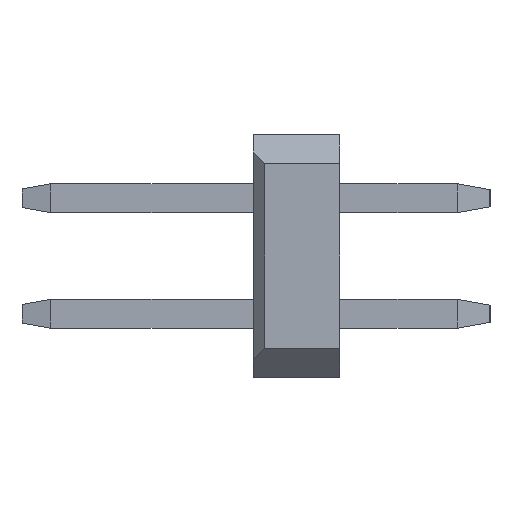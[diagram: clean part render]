
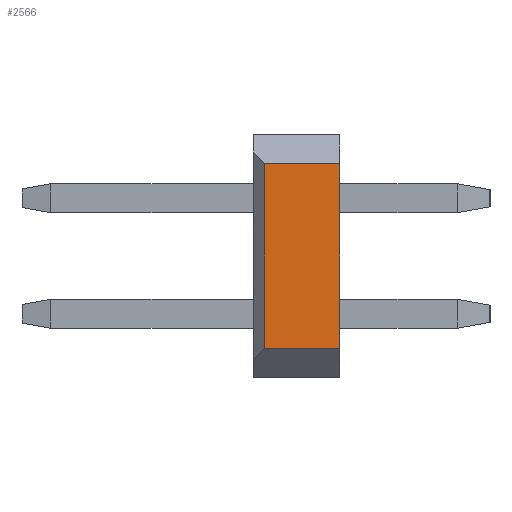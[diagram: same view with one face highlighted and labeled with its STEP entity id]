
A CAD part, left-side view. The second image highlights one B-rep face of the part: STEP entity #2566.
In plain terms, the highlighted planar face has unit normal (-1, 0, 0).
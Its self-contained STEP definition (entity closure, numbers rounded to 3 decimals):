
#2415 = EDGE_LOOP ( 'NONE', ( #2541, #2545, #2568, #2570 ) ) ;
#2537 = EDGE_CURVE ( 'NONE', #2546, #2567, #11618, .T. ) ;
#2541 = ORIENTED_EDGE ( 'NONE', *, *, #2544, .F. ) ;
#2544 = EDGE_CURVE ( 'NONE', #2567, #17060, #11613, .T. ) ;
#2545 = ORIENTED_EDGE ( 'NONE', *, *, #2537, .F. ) ;
#2546 = VERTEX_POINT ( 'NONE', #11720 ) ;
#2566 = ADVANCED_FACE ( 'NONE', ( #11746 ), #11745, .F. ) ;
#2567 = VERTEX_POINT ( 'NONE', #11740 ) ;
#2568 = ORIENTED_EDGE ( 'NONE', *, *, #2569, .T. ) ;
#2569 = EDGE_CURVE ( 'NONE', #2546, #17066, #11739, .T. ) ;
#2570 = ORIENTED_EDGE ( 'NONE', *, *, #17065, .T. ) ;
#7138 = CARTESIAN_POINT ( 'NONE',  ( -19., 0., -0.6 ) ) ;
#7139 = DIRECTION ( 'NONE',  ( 0., 0., 1. ) ) ;
#7140 = VECTOR ( 'NONE', #7139, 1000. ) ;
#7141 = CARTESIAN_POINT ( 'NONE',  ( -19., 0., -0.6 ) ) ;
#7142 = LINE ( 'NONE', #7141, #7140 ) ;
#7231 = CARTESIAN_POINT ( 'NONE',  ( -19., 0., 2.6 ) ) ;
#11613 = LINE ( 'NONE', #11723, #11722 ) ;
#11615 = DIRECTION ( 'NONE',  ( 0., 0., 1. ) ) ;
#11616 = VECTOR ( 'NONE', #11615, 1000. ) ;
#11617 = CARTESIAN_POINT ( 'NONE',  ( -19., 1.3, -1.1 ) ) ;
#11618 = LINE ( 'NONE', #11617, #11616 ) ;
#11720 = CARTESIAN_POINT ( 'NONE',  ( -19., 1.3, -0.6 ) ) ;
#11721 = DIRECTION ( 'NONE',  ( 0., -1., 0. ) ) ;
#11722 = VECTOR ( 'NONE', #11721, 1000. ) ;
#11723 = CARTESIAN_POINT ( 'NONE',  ( -19., 1.5, 2.6 ) ) ;
#11736 = DIRECTION ( 'NONE',  ( 0., -1., 0. ) ) ;
#11737 = VECTOR ( 'NONE', #11736, 1000. ) ;
#11738 = CARTESIAN_POINT ( 'NONE',  ( -19., 1.5, -0.6 ) ) ;
#11739 = LINE ( 'NONE', #11738, #11737 ) ;
#11740 = CARTESIAN_POINT ( 'NONE',  ( -19., 1.3, 2.6 ) ) ;
#11741 = DIRECTION ( 'NONE',  ( 0., 0., -1. ) ) ;
#11742 = DIRECTION ( 'NONE',  ( 1., 0., 0. ) ) ;
#11743 = CARTESIAN_POINT ( 'NONE',  ( -19., 1.5, -0.6 ) ) ;
#11744 = AXIS2_PLACEMENT_3D ( 'NONE', #11743, #11742, #11741 ) ;
#11745 = PLANE ( 'NONE',  #11744 ) ;
#11746 = FACE_OUTER_BOUND ( 'NONE', #2415, .T. ) ;
#17060 = VERTEX_POINT ( 'NONE', #7231 ) ;
#17065 = EDGE_CURVE ( 'NONE', #17066, #17060, #7142, .T. ) ;
#17066 = VERTEX_POINT ( 'NONE', #7138 ) ;
